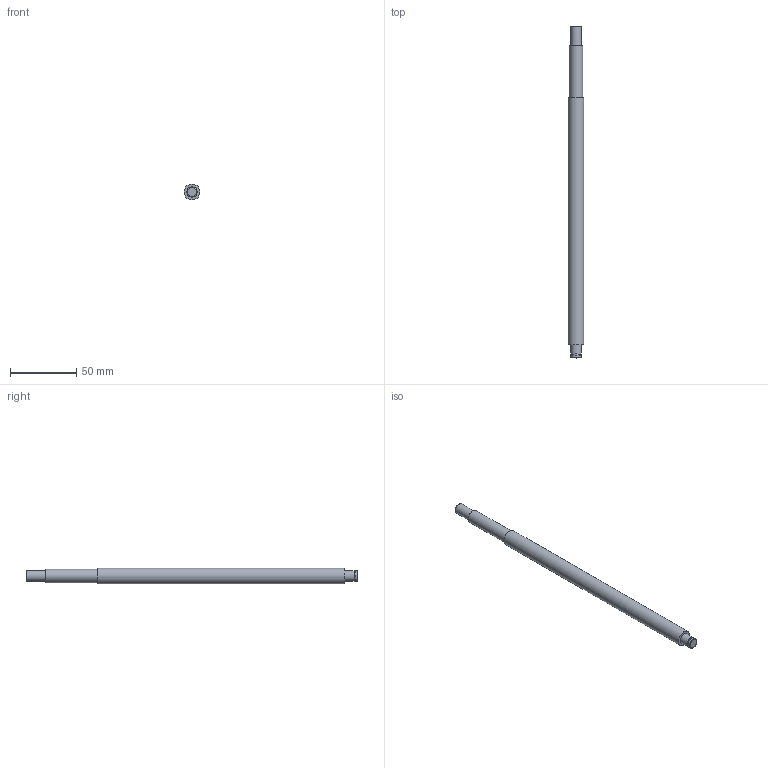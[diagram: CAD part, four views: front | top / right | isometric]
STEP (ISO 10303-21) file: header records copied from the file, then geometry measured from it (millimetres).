
FILE_DESCRIPTION(/* description */ (''),/* implementation_level */ '2;1');
FILE_NAME(/* name */ 'C:\Users\David\Desktop\stepFiles\Profilfuehrung\KUS1204x250.stp',/* time_stamp */ '2018-06-24T15:05:12+02:00',/* author */ ('David'),/* organization */ (''),/* preprocessor_version */ 'ST-DEVELOPER v17',/* originating_system */ 'Autodesk Inventor 2019',/* authorisation */ '');
FILE_SCHEMA (('AUTOMOTIVE_DESIGN { 1 0 10303 214 3 1 1 }'));
Length unit declared in the file: millimetre
Products named in the file (1): SFU1204xvariabel
Bounding box: 12 x 250 x 12 mm (x, y, z)
Volume: 25345.4 mm3; surface area: 9085.1 mm2
Topology: 1 solids, 1 shells, 15 faces, 34 edges, 26 vertices
Faces by surface type: plane 7, cylinder 6, cone 2
Full cylindrical faces by diameter (mm): 7.6 x1, 8 x3, 10 x1, 12 x1
Entity records: 493 total; most frequent: DIRECTION 92, CARTESIAN_POINT 76, ORIENTED_EDGE 68, AXIS2_PLACEMENT_3D 42, EDGE_CURVE 34, CIRCLE 26, VERTEX_POINT 26, EDGE_LOOP 20
